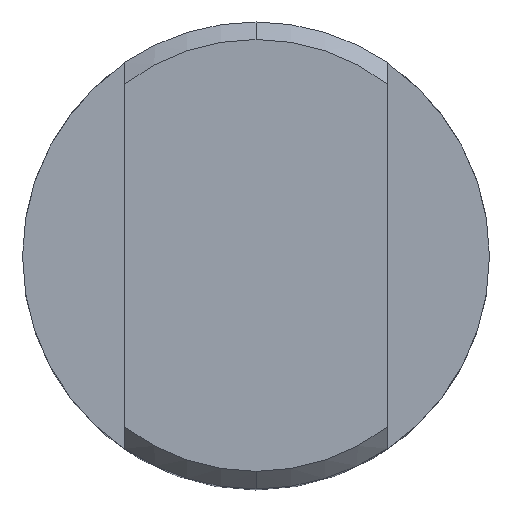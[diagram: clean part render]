
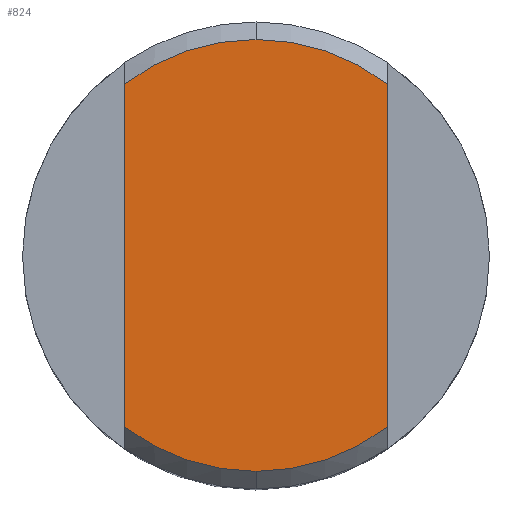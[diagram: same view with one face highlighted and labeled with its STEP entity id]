
A CAD part, top view. The second image highlights one B-rep face of the part: STEP entity #824.
In plain terms, the highlighted planar face has unit normal (0, 0, 1).
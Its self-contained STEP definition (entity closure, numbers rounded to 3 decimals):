
#3 = ORIENTED_EDGE ( 'NONE', *, *, #223, .T. ) ;
#121 = PLANE ( 'NONE',  #410 ) ;
#142 = DIRECTION ( 'NONE',  ( 0., 0., -1. ) ) ;
#160 = DIRECTION ( 'NONE',  ( 0., 0., -1. ) ) ;
#188 = DIRECTION ( 'NONE',  ( -1., 0., 0. ) ) ;
#223 = EDGE_CURVE ( 'NONE', #716, #1127, #431, .T. ) ;
#260 = CARTESIAN_POINT ( 'NONE',  ( -22.5, -29.373, 366.5 ) ) ;
#270 = AXIS2_PLACEMENT_3D ( 'NONE', #378, #1105, #292 ) ;
#292 = DIRECTION ( 'NONE',  ( 0., -1., 0. ) ) ;
#310 = ORIENTED_EDGE ( 'NONE', *, *, #422, .F. ) ;
#369 = CARTESIAN_POINT ( 'NONE',  ( 22.5, -29.373, 366.5 ) ) ;
#374 = EDGE_CURVE ( 'NONE', #600, #919, #1016, .T. ) ;
#378 = CARTESIAN_POINT ( 'NONE',  ( 0., 0., 366.5 ) ) ;
#390 = AXIS2_PLACEMENT_3D ( 'NONE', #682, #503, #1029 ) ;
#406 = VERTEX_POINT ( 'NONE', #1042 ) ;
#410 = AXIS2_PLACEMENT_3D ( 'NONE', #733, #934, #188 ) ;
#421 = CARTESIAN_POINT ( 'NONE',  ( -22.5, -17.5, 366.5 ) ) ;
#422 = EDGE_CURVE ( 'NONE', #716, #406, #993, .T. ) ;
#431 = LINE ( 'NONE', #421, #617 ) ;
#436 = CARTESIAN_POINT ( 'NONE',  ( 22.5, 29.373, 366.5 ) ) ;
#475 = DIRECTION ( 'NONE',  ( 0., 1., 0. ) ) ;
#487 = ORIENTED_EDGE ( 'NONE', *, *, #627, .T. ) ;
#503 = DIRECTION ( 'NONE',  ( 0., 0., -1. ) ) ;
#513 = EDGE_CURVE ( 'NONE', #919, #1127, #691, .T. ) ;
#522 = DIRECTION ( 'NONE',  ( 0., -1., 0. ) ) ;
#526 = VERTEX_POINT ( 'NONE', #436 ) ;
#531 = VECTOR ( 'NONE', #813, 1000. ) ;
#600 = VERTEX_POINT ( 'NONE', #369 ) ;
#615 = CARTESIAN_POINT ( 'NONE',  ( 0., 0., 366.5 ) ) ;
#617 = VECTOR ( 'NONE', #811, 1000. ) ;
#627 = EDGE_CURVE ( 'NONE', #600, #526, #744, .T. ) ;
#659 = AXIS2_PLACEMENT_3D ( 'NONE', #672, #142, #475 ) ;
#670 = CIRCLE ( 'NONE', #390, 37. ) ;
#672 = CARTESIAN_POINT ( 'NONE',  ( 0., 0., 366.5 ) ) ;
#675 = ORIENTED_EDGE ( 'NONE', *, *, #513, .F. ) ;
#682 = CARTESIAN_POINT ( 'NONE',  ( 0., 0., 366.5 ) ) ;
#691 = CIRCLE ( 'NONE', #750, 37. ) ;
#716 = VERTEX_POINT ( 'NONE', #948 ) ;
#733 = CARTESIAN_POINT ( 'NONE',  ( 0., 0., 366.5 ) ) ;
#744 = LINE ( 'NONE', #1102, #531 ) ;
#747 = CARTESIAN_POINT ( 'NONE',  ( 0., -37., 366.5 ) ) ;
#750 = AXIS2_PLACEMENT_3D ( 'NONE', #615, #160, #522 ) ;
#811 = DIRECTION ( 'NONE',  ( 0., -1., 0. ) ) ;
#813 = DIRECTION ( 'NONE',  ( 0., 1., 0. ) ) ;
#824 = ADVANCED_FACE ( 'NONE', ( #830 ), #121, .F. ) ;
#830 = FACE_OUTER_BOUND ( 'NONE', #964, .T. ) ;
#870 = ORIENTED_EDGE ( 'NONE', *, *, #963, .F. ) ;
#879 = ORIENTED_EDGE ( 'NONE', *, *, #374, .F. ) ;
#919 = VERTEX_POINT ( 'NONE', #747 ) ;
#934 = DIRECTION ( 'NONE',  ( 0., 0., -1. ) ) ;
#948 = CARTESIAN_POINT ( 'NONE',  ( -22.5, 29.373, 366.5 ) ) ;
#963 = EDGE_CURVE ( 'NONE', #406, #526, #670, .T. ) ;
#964 = EDGE_LOOP ( 'NONE', ( #879, #487, #870, #310, #3, #675 ) ) ;
#993 = CIRCLE ( 'NONE', #659, 37. ) ;
#1016 = CIRCLE ( 'NONE', #270, 37. ) ;
#1029 = DIRECTION ( 'NONE',  ( 0., 1., 0. ) ) ;
#1042 = CARTESIAN_POINT ( 'NONE',  ( 0., 37., 366.5 ) ) ;
#1102 = CARTESIAN_POINT ( 'NONE',  ( 22.5, 17.5, 366.5 ) ) ;
#1105 = DIRECTION ( 'NONE',  ( 0., 0., -1. ) ) ;
#1127 = VERTEX_POINT ( 'NONE', #260 ) ;
